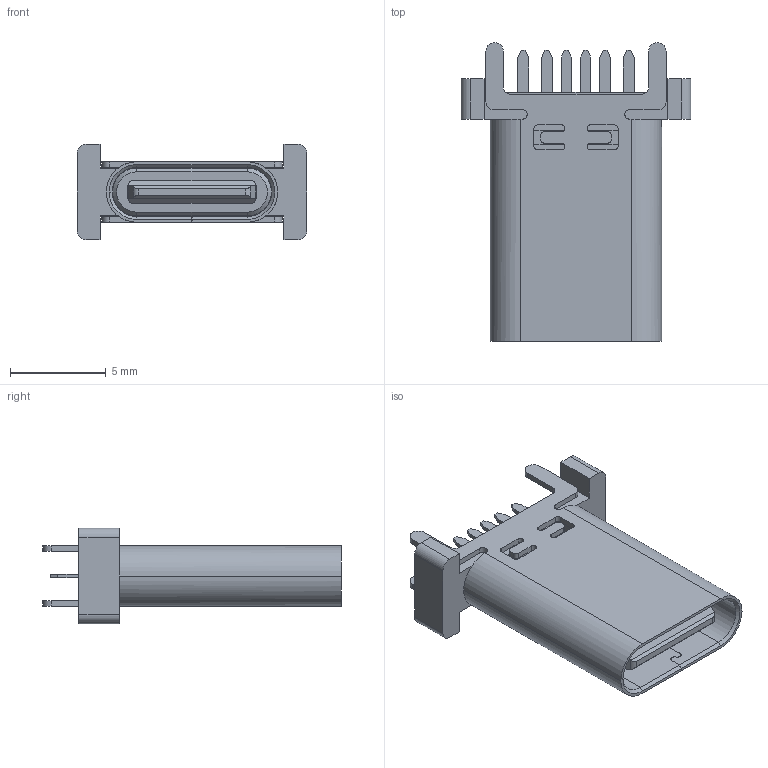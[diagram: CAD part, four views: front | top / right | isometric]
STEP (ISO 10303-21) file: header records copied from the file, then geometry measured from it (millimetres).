
FILE_DESCRIPTION (( 'STEP AP203' ), '1' );
FILE_NAME ('Product H=13.7mm.STEP', '2021-01-04T13:23:21', ( 'Windows 蚚誧' ), ( 'Microsoft' ), 'SwSTEP 2.0', 'SolidWorks 2016', '' );
FILE_SCHEMA (( 'CONFIG_CONTROL_DESIGN' ));
Length unit declared in the file: millimetre
Products named in the file (1): Product  H=13.7mm
Bounding box: 12 x 15.6 x 5 mm (x, y, z)
Volume: 289 mm3; surface area: 925 mm2
Topology: 1 solids, 1 shells, 334 faces, 948 edges, 625 vertices
Faces by surface type: plane 210, cylinder 119, cone 5
Entity records: 10932 total; most frequent: CARTESIAN_POINT 1944, ORIENTED_EDGE 1896, DIRECTION 1853, EDGE_CURVE 948, VECTOR 689, LINE 689, VERTEX_POINT 625, AXIS2_PLACEMENT_3D 582
